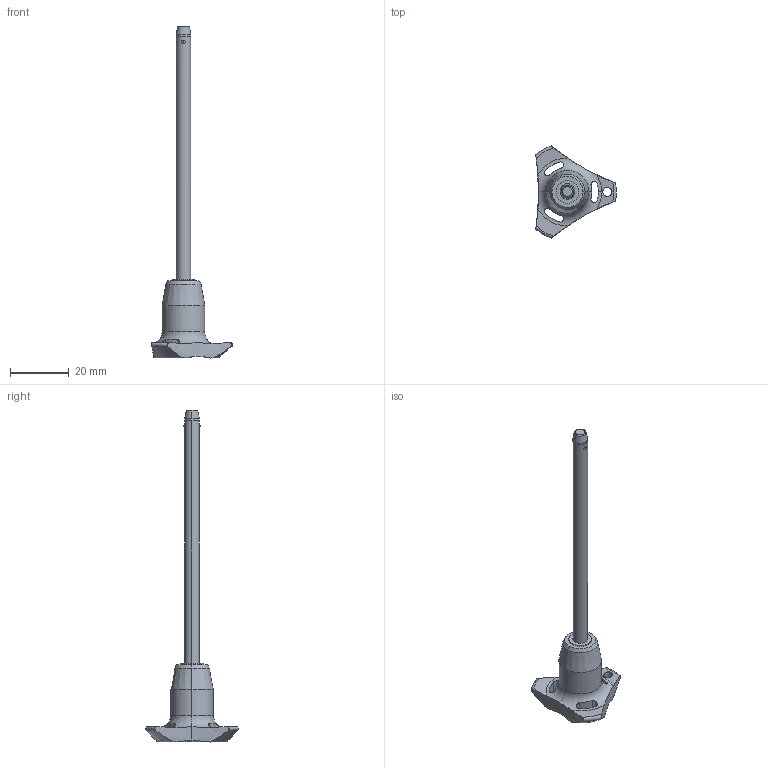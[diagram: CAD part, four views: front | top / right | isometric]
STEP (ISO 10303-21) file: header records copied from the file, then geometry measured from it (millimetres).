
FILE_DESCRIPTION (( 'STEP AP203' ), '1' );
FILE_NAME ('QR1726.M05-080-T.step', '2025-11-13T11:01:05', ( '' ), ( '' ), 'SwSTEP 2.0', 'SolidWorks 2019', '' );
FILE_SCHEMA (( 'CONFIG_CONTROL_DESIGN' ));
Length unit declared in the file: millimetre
Products named in the file (1): QR1726.M05-080-T
Bounding box: 27.4 x 31.31 x 112.7 mm (x, y, z)
Volume: 6438.7 mm3; surface area: 3765 mm2
Topology: 1 solids, 1 shells, 69 faces, 187 edges, 119 vertices
Faces by surface type: cylinder 32, cone 14, torus 12, sphere 6, plane 5
Entity records: 2773 total; most frequent: CARTESIAN_POINT 994, ORIENTED_EDGE 374, DIRECTION 348, EDGE_CURVE 187, AXIS2_PLACEMENT_3D 155, VERTEX_POINT 119, CIRCLE 85, EDGE_LOOP 76
